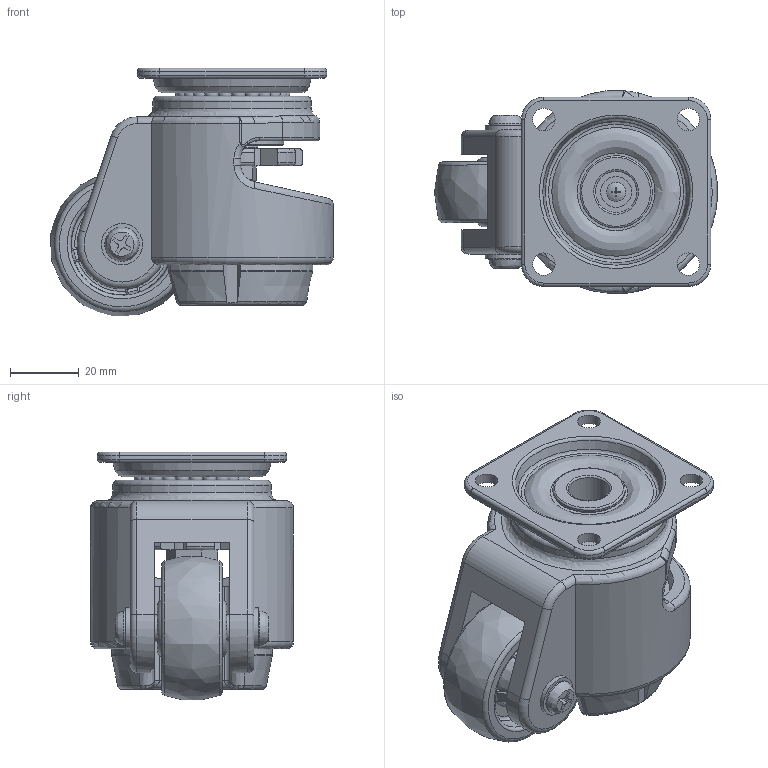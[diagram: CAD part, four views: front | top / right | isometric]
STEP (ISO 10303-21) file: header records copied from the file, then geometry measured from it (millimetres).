
FILE_DESCRIPTION((' '),'2;1');
FILE_NAME('Y:\00. A standard brand\06. 3D Modeling\외부전송용_STEP\CARRYMASTER.STEP\AC-50FP.stp.stp','2011-11-22T12:19:17',(' '),(' '),' ','ACIS',' ');
FILE_SCHEMA(('CONFIG_CONTROL_DESIGN'));
Length unit declared in the file: millimetre
Products named in the file (1): Y:\00. A standard brand\06. 3D Modeling\외부전송용_STEP\CARRYMASTER.STEP\AC-50FP.stp.stp
Bounding box: 82.23 x 58.99 x 71.98 mm (x, y, z)
Volume: 131524.7 mm3; surface area: 54556.6 mm2
Topology: 25 solids, 28 shells, 641 faces, 1653 edges, 999 vertices
Faces by surface type: plane 216, cylinder 197, torus 89, bspline 64, sphere 45, cone 30
Full cylindrical faces by diameter (mm): 2.5 x1, 5.2 x1, 5.6 x1, 6 x2, 8 x2, 8.2 x1, 9 x3, 10 x2, 12 x3, 14.5 x1, 15 x1, 21 x1, 22 x1, 24 x1, 30 x1, 32.2 x1, 46 x1
Entity records: 24591 total; most frequent: CARTESIAN_POINT 10188, DIRECTION 3056, ORIENTED_EDGE 2852, EDGE_CURVE 1426, AXIS2_PLACEMENT_3D 1234, VERTEX_POINT 930, EDGE_LOOP 768, FACE_OUTER_BOUND 641
